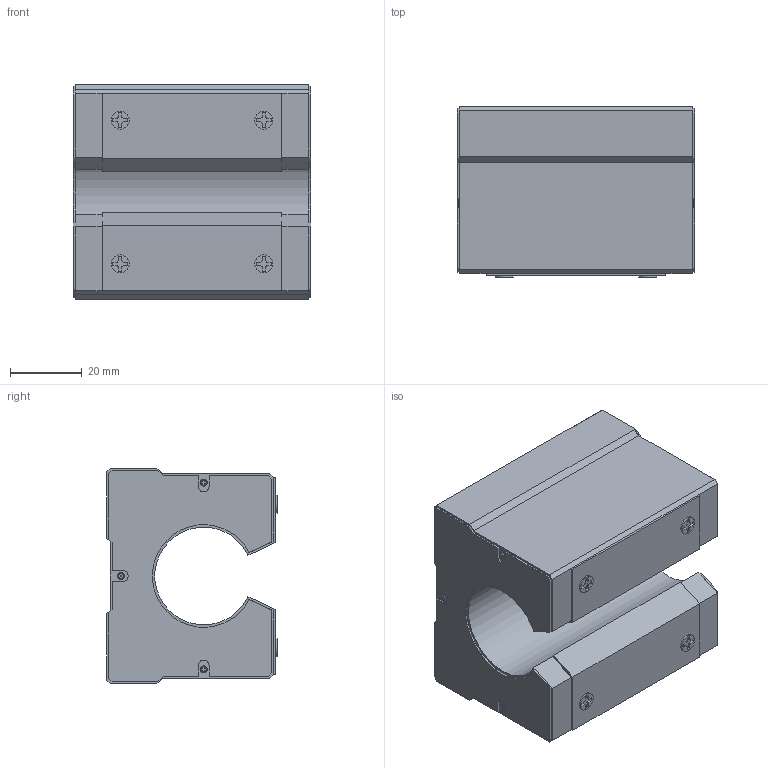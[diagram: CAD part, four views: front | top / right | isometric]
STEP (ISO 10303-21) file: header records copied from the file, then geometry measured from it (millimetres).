
FILE_DESCRIPTION (( 'STEP AP203' ), '1' );
FILE_NAME ('SME25UU.STEP', '2020-03-23T03:03:09', ( '' ), ( '' ), 'SwSTEP 2.0', 'SolidWorks 2017', '' );
FILE_SCHEMA (( 'CONFIG_CONTROL_DESIGN' ));
Length unit declared in the file: millimetre
Products named in the file (1): SME25UU
Bounding box: 66 x 47.5 x 60 mm (x, y, z)
Volume: 132181.9 mm3; surface area: 22726.9 mm2
Topology: 1 solids, 1 shells, 296 faces, 798 edges, 524 vertices
Faces by surface type: plane 239, cylinder 45, torus 12
Entity records: 9273 total; most frequent: CARTESIAN_POINT 1679, ORIENTED_EDGE 1596, DIRECTION 1490, EDGE_CURVE 798, LINE 676, VECTOR 676, VERTEX_POINT 524, AXIS2_PLACEMENT_3D 407
